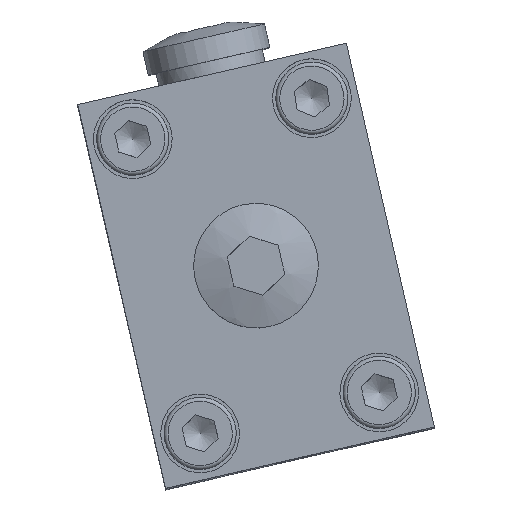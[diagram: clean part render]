
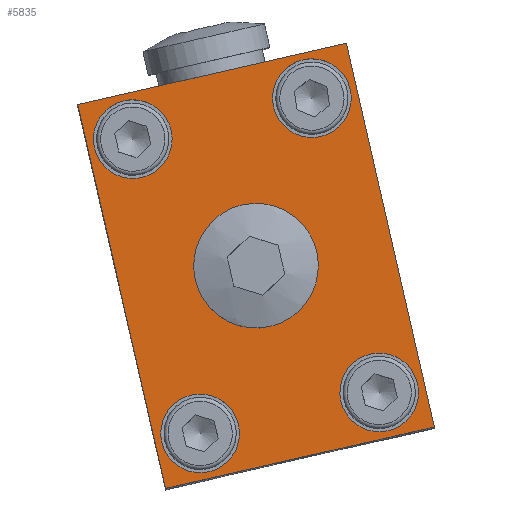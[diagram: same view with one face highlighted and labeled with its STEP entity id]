
A CAD part, top view. The second image highlights one B-rep face of the part: STEP entity #5835.
In plain terms, the highlighted planar face has unit normal (0, 0, 1).
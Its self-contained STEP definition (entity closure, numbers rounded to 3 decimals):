
#4182=CARTESIAN_POINT('',(-15.,14.65,22.959));
#4183=VERTEX_POINT('',#4182);
#4184=CARTESIAN_POINT('',(-15.,10.5,22.959));
#4185=DIRECTION('',(0.0,0.0,-1.0));
#4186=DIRECTION('',(0.0,1.0,0.0));
#4187=AXIS2_PLACEMENT_3D('',#4184,#4185,#4186);
#4188=CIRCLE('',#4187,4.15);
#4189=EDGE_CURVE('',#4183,#4183,#4188,.T.);
#5512=CARTESIAN_POINT('',(-0.5,3.5,22.959));
#5513=VERTEX_POINT('',#5512);
#5514=CARTESIAN_POINT('',(-3.5,3.5,22.959));
#5515=DIRECTION('',(0.0,0.0,-1.0));
#5516=DIRECTION('',(1.0,0.0,0.0));
#5517=AXIS2_PLACEMENT_3D('',#5514,#5515,#5516);
#5518=CIRCLE('',#5517,3.);
#5519=EDGE_CURVE('',#5513,#5513,#5518,.T.);
#5573=CARTESIAN_POINT('',(-23.5,17.5,22.959));
#5574=VERTEX_POINT('',#5573);
#5575=CARTESIAN_POINT('',(-26.5,17.5,22.959));
#5576=DIRECTION('',(0.0,0.0,-1.0));
#5577=DIRECTION('',(1.0,0.0,0.0));
#5578=AXIS2_PLACEMENT_3D('',#5575,#5576,#5577);
#5579=CIRCLE('',#5578,3.);
#5580=EDGE_CURVE('',#5574,#5574,#5579,.T.);
#5634=CARTESIAN_POINT('',(-23.5,3.5,22.959));
#5635=VERTEX_POINT('',#5634);
#5636=CARTESIAN_POINT('',(-26.5,3.5,22.959));
#5637=DIRECTION('',(0.0,0.0,-1.0));
#5638=DIRECTION('',(1.0,0.0,0.0));
#5639=AXIS2_PLACEMENT_3D('',#5636,#5637,#5638);
#5640=CIRCLE('',#5639,3.);
#5641=EDGE_CURVE('',#5635,#5635,#5640,.T.);
#5695=CARTESIAN_POINT('',(-0.5,17.5,22.959));
#5696=VERTEX_POINT('',#5695);
#5697=CARTESIAN_POINT('',(-3.5,17.5,22.959));
#5698=DIRECTION('',(0.0,0.0,-1.0));
#5699=DIRECTION('',(1.0,0.0,0.0));
#5700=AXIS2_PLACEMENT_3D('',#5697,#5698,#5699);
#5701=CIRCLE('',#5700,3.);
#5702=EDGE_CURVE('',#5696,#5696,#5701,.T.);
#5717=CARTESIAN_POINT('',(0.,21.,22.959));
#5718=VERTEX_POINT('',#5717);
#5725=CARTESIAN_POINT('',(0.,0.,22.959));
#5726=VERTEX_POINT('',#5725);
#5727=CARTESIAN_POINT('',(0.,21.,22.959));
#5728=DIRECTION('',(0.0,-1.0,0.0));
#5729=VECTOR('',#5728,21.0);
#5730=LINE('',#5727,#5729);
#5731=EDGE_CURVE('',#5718,#5726,#5730,.T.);
#5750=CARTESIAN_POINT('',(-30.,21.,22.959));
#5751=VERTEX_POINT('',#5750);
#5758=CARTESIAN_POINT('',(-30.,21.,22.959));
#5759=DIRECTION('',(1.0,0.0,0.0));
#5760=VECTOR('',#5759,30.0);
#5761=LINE('',#5758,#5760);
#5762=EDGE_CURVE('',#5751,#5718,#5761,.T.);
#5775=CARTESIAN_POINT('',(-30.,0.,22.959));
#5776=VERTEX_POINT('',#5775);
#5777=CARTESIAN_POINT('',(0.,0.,22.959));
#5778=DIRECTION('',(-1.0,0.0,0.0));
#5779=VECTOR('',#5778,30.0);
#5780=LINE('',#5777,#5779);
#5781=EDGE_CURVE('',#5726,#5776,#5780,.T.);
#5799=CARTESIAN_POINT('',(-30.,0.,22.959));
#5800=DIRECTION('',(0.0,1.0,0.0));
#5801=VECTOR('',#5800,21.);
#5802=LINE('',#5799,#5801);
#5803=EDGE_CURVE('',#5776,#5751,#5802,.T.);
#5809=CARTESIAN_POINT('',(-15.,10.5,22.959));
#5810=DIRECTION('',(0.0,0.0,1.0));
#5811=DIRECTION('',(1.0,0.0,0.0));
#5812=AXIS2_PLACEMENT_3D('',#5809,#5810,#5811);
#5813=PLANE('',#5812);
#5814=ORIENTED_EDGE('',*,*,#5731,.F.);
#5815=ORIENTED_EDGE('',*,*,#5762,.F.);
#5816=ORIENTED_EDGE('',*,*,#5803,.F.);
#5817=ORIENTED_EDGE('',*,*,#5781,.F.);
#5818=EDGE_LOOP('',(#5814,#5815,#5816,#5817));
#5819=FACE_OUTER_BOUND('',#5818,.T.);
#5820=ORIENTED_EDGE('',*,*,#4189,.T.);
#5821=EDGE_LOOP('',(#5820));
#5822=FACE_BOUND('',#5821,.T.);
#5823=ORIENTED_EDGE('',*,*,#5519,.T.);
#5824=EDGE_LOOP('',(#5823));
#5825=FACE_BOUND('',#5824,.T.);
#5826=ORIENTED_EDGE('',*,*,#5580,.T.);
#5827=EDGE_LOOP('',(#5826));
#5828=FACE_BOUND('',#5827,.T.);
#5829=ORIENTED_EDGE('',*,*,#5641,.T.);
#5830=EDGE_LOOP('',(#5829));
#5831=FACE_BOUND('',#5830,.T.);
#5832=ORIENTED_EDGE('',*,*,#5702,.T.);
#5833=EDGE_LOOP('',(#5832));
#5834=FACE_BOUND('',#5833,.T.);
#5835=ADVANCED_FACE('',(#5819,#5822,#5825,#5828,#5831,#5834),#5813,.T.);
